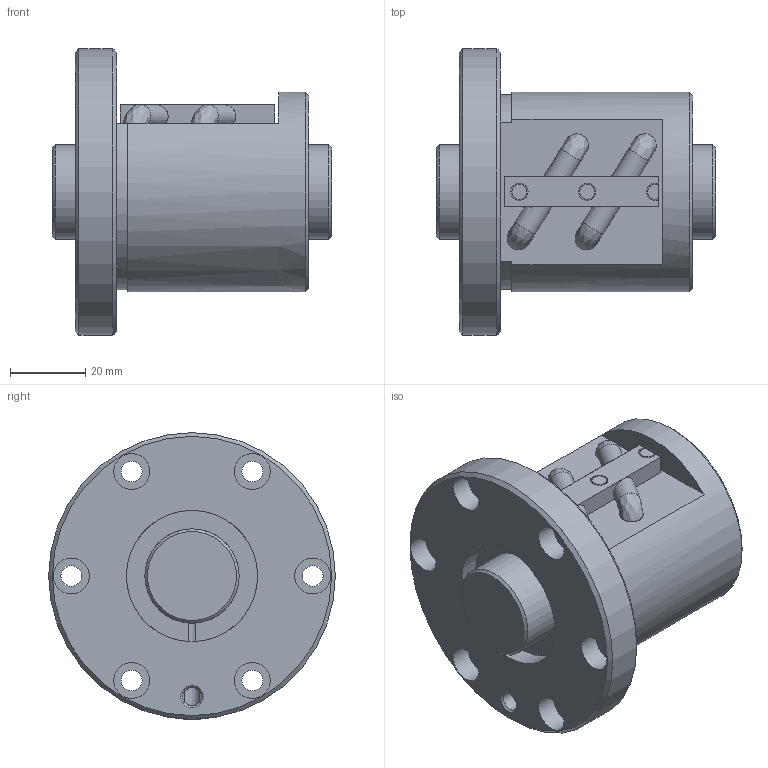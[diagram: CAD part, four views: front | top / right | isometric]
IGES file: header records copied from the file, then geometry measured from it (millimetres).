
Start section: Data from Parasolid IGES Translator 26.0.171, Copyright(c) 2006 Siemens PLM Software. All Rights Reserved.
Global section: file name: BIF2506V-5RRG0+74LC0_000.igs; native system: By Siemens PLM Incorporated; preprocessor: XPlus GENERIC/IGES 26.0.171; author: Noname; organization: Noname; date: 20240715.081740; units: millimetre
Bounding box: 74 x 76 x 76 mm (x, y, z)
Surface area: 33684.3 mm2 (no closed solid volume)
Topology: 0 solids, 0 shells, 96 faces, 444 edges, 403 vertices
Faces by surface type: revolution 51, extrusion 45
